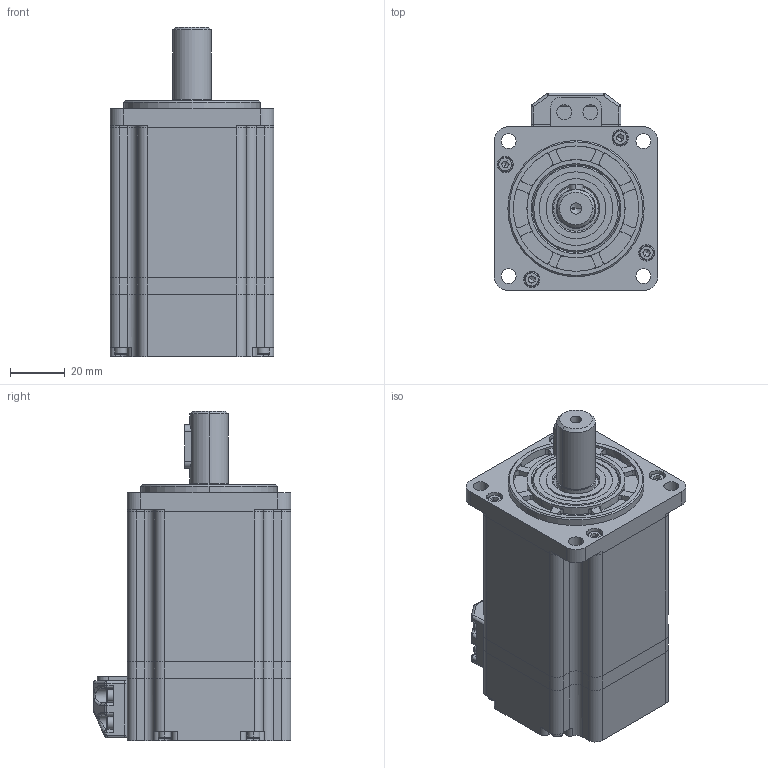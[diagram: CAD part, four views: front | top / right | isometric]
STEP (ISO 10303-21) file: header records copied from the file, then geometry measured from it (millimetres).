
FILE_DESCRIPTION (( 'STEP AP203' ), '1' );
FILE_NAME ('淕儂蚾饜.STEP', '2020-08-10T01:08:14', ( 'admin' ), ( '' ), 'SwSTEP 2.0', 'SolidWorks 2016', '' );
FILE_SCHEMA (( 'CONFIG_CONTROL_DESIGN' ));
Length unit declared in the file: millimetre
Products named in the file (1): 淕儂蚾饜
Bounding box: 60 x 72.5 x 121 mm (x, y, z)
Volume: 129681.2 mm3; surface area: 81542.3 mm2
Topology: 21 solids, 21 shells, 1237 faces, 3089 edges, 1900 vertices
Faces by surface type: cylinder 546, plane 458, cone 147, torus 48, sphere 26, bspline 12
Entity records: 37986 total; most frequent: CARTESIAN_POINT 7735, DIRECTION 6793, ORIENTED_EDGE 6010, EDGE_CURVE 3005, AXIS2_PLACEMENT_3D 2634, VERTEX_POINT 1900, VECTOR 1525, LINE 1525
